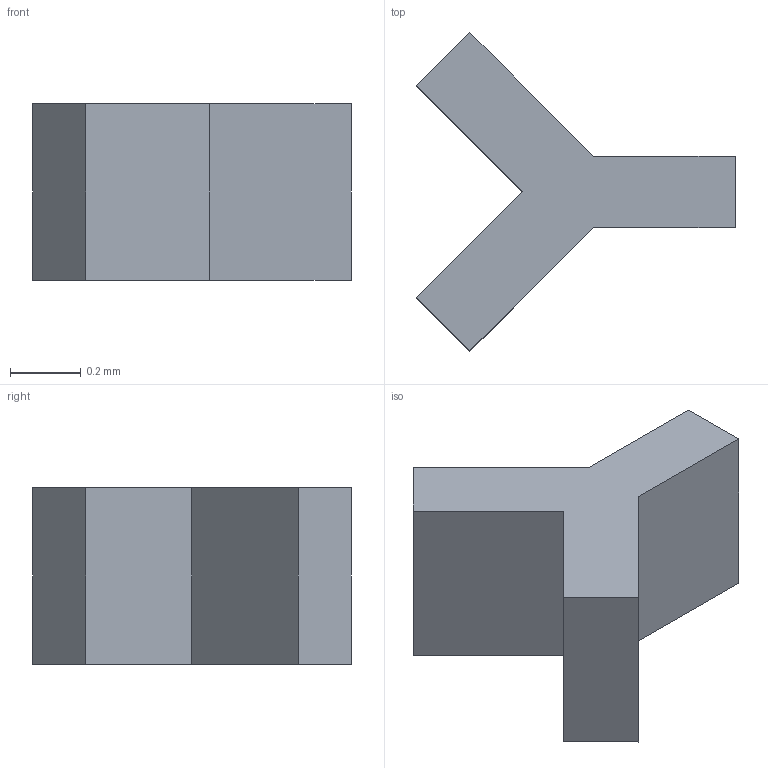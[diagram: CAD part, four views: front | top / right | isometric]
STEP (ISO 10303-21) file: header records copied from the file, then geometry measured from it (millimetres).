
FILE_DESCRIPTION(/* description */ ('STEP AP242 Edition 2','CAx-IF Rec.Pracs.---Representation and Presentation of Product Manufacturing Information (PMI)---4.0---2014-10-13','CAx-IF Rec.Pracs.---3D Tessellated Geometry---0.4---2014-09-14','2;1','CAx-IF Rec.Pracs.---User Defined Attributes---1.5---2016-08-15'),/* implementation_level */ '2;1');
FILE_NAME(/* name */ 'Drone Layout - Surface 283',/* time_stamp */ '2026-10-04T22:22:54Z',/* author */ (''),/* organization */ (''),/* preprocessor_version */ 'ST-DEVELOPER v20',/* originating_system */ 'ONSHAPE BY PTC INC, 1.221',/* authorisation */ ' ');
FILE_SCHEMA (('AP242_MANAGED_MODEL_BASED_3D_ENGINEERING_MIM_LF { 1 0 10303 442 3 1 4 }'));
Length unit declared in the file: metre
Products named in the file (1): Text_Y
Bounding box: 0.9 x 0.9 x 0.5 mm (x, y, z)
Volume: 0.1 mm3; surface area: 2.2 mm2
Topology: 1 solids, 1 shells, 11 faces, 27 edges, 18 vertices
Faces by surface type: plane 11
Entity records: 334 total; most frequent: CARTESIAN_POINT 57, ORIENTED_EDGE 54, DIRECTION 51, EDGE_CURVE 27, LINE 27, VECTOR 27, VERTEX_POINT 18, AXIS2_PLACEMENT_3D 12
